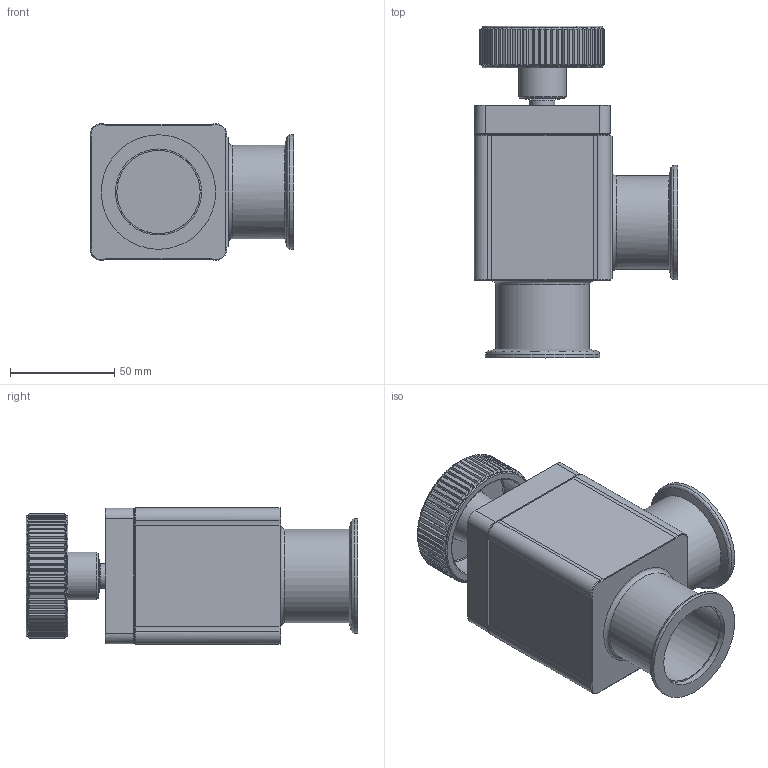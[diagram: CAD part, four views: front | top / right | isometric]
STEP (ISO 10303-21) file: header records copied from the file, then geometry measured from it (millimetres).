
FILE_DESCRIPTION((''),'2;1');
FILE_NAME('C:\TEMP\IDEAS\252870.stp','2006-09-19T15:49:51',('User'),( 'SDRC'),'I-DEAS Master Series 9','UNIX','Yes');
FILE_SCHEMA(('CONFIG_CONTROL_DESIGN'));
Length unit declared in the file: millimetre
Assembly tree (10 placements, depth 0):
Bounding box: 97.8 x 159.3 x 65.6 mm (x, y, z)
Volume: 250310.6 mm3; surface area: 100179.5 mm2
Topology: 18 solids, 18 shells, 688 faces, 1491 edges, 892 vertices
Faces by surface type: bspline 688
Entity records: 20910 total; most frequent: CARTESIAN_POINT 11838, ORIENTED_EDGE 2724, EDGE_CURVE 1362, VERTEX_POINT 790, EDGE_LOOP 690, FACE_OUTER_BOUND 631, ADVANCED_FACE 631, QUASI_UNIFORM_CURVE 563
